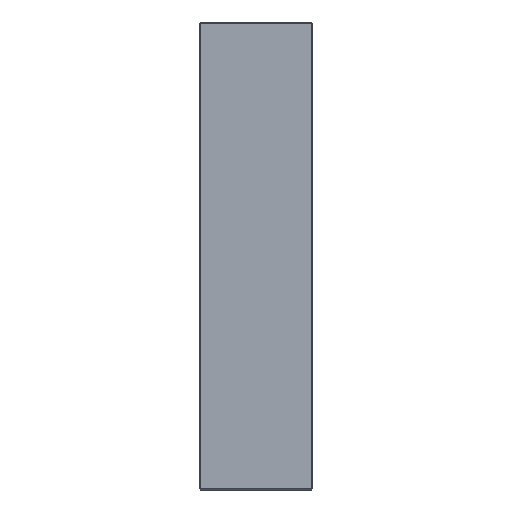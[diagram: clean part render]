
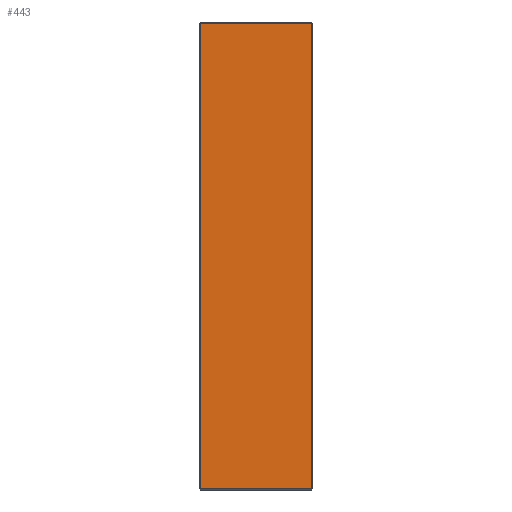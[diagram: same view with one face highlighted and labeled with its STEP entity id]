
A CAD part, left-side view. The second image highlights one B-rep face of the part: STEP entity #443.
In plain terms, the highlighted planar face has unit normal (-1, 0, 0).
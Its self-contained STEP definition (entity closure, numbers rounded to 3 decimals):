
#7 = PLANE ( 'NONE',  #1989 ) ;
#68 = EDGE_LOOP ( 'NONE', ( #2354, #1806, #799, #465 ) ) ;
#237 = CARTESIAN_POINT ( 'NONE',  ( -198., 95., 198. ) ) ;
#293 = VERTEX_POINT ( 'NONE', #1620 ) ;
#362 = FACE_OUTER_BOUND ( 'NONE', #68, .T. ) ;
#380 = CARTESIAN_POINT ( 'NONE',  ( -198., 1., -197. ) ) ;
#437 = LINE ( 'NONE', #2258, #1077 ) ;
#443 = ADVANCED_FACE ( 'NONE', ( #362 ), #7, .F. ) ;
#453 = DIRECTION ( 'NONE',  ( 0., 0., -1. ) ) ;
#461 = CARTESIAN_POINT ( 'NONE',  ( -198., 95., -197. ) ) ;
#465 = ORIENTED_EDGE ( 'NONE', *, *, #1773, .T. ) ;
#557 = CARTESIAN_POINT ( 'NONE',  ( -198., 1., 198. ) ) ;
#701 = EDGE_CURVE ( 'NONE', #293, #1389, #1543, .T. ) ;
#719 = VERTEX_POINT ( 'NONE', #380 ) ;
#799 = ORIENTED_EDGE ( 'NONE', *, *, #1798, .T. ) ;
#1008 = CARTESIAN_POINT ( 'NONE',  ( -198., 96., 197. ) ) ;
#1077 = VECTOR ( 'NONE', #2115, 1000. ) ;
#1147 = LINE ( 'NONE', #1008, #1638 ) ;
#1341 = DIRECTION ( 'NONE',  ( 0., 1., 0. ) ) ;
#1389 = VERTEX_POINT ( 'NONE', #461 ) ;
#1406 = CARTESIAN_POINT ( 'NONE',  ( -198., 1., 197. ) ) ;
#1508 = DIRECTION ( 'NONE',  ( 0., 0., 1. ) ) ;
#1543 = LINE ( 'NONE', #237, #1599 ) ;
#1599 = VECTOR ( 'NONE', #453, 1000. ) ;
#1620 = CARTESIAN_POINT ( 'NONE',  ( -198., 95., 197. ) ) ;
#1638 = VECTOR ( 'NONE', #1341, 1000. ) ;
#1773 = EDGE_CURVE ( 'NONE', #719, #2269, #2167, .T. ) ;
#1798 = EDGE_CURVE ( 'NONE', #1389, #719, #437, .T. ) ;
#1806 = ORIENTED_EDGE ( 'NONE', *, *, #701, .T. ) ;
#1815 = CARTESIAN_POINT ( 'NONE',  ( -198., 96., 198. ) ) ;
#1989 = AXIS2_PLACEMENT_3D ( 'NONE', #1815, #2632, #2636 ) ;
#2115 = DIRECTION ( 'NONE',  ( 0., -1., 0. ) ) ;
#2118 = VECTOR ( 'NONE', #1508, 1000. ) ;
#2167 = LINE ( 'NONE', #557, #2118 ) ;
#2258 = CARTESIAN_POINT ( 'NONE',  ( -198., 96., -197. ) ) ;
#2269 = VERTEX_POINT ( 'NONE', #1406 ) ;
#2354 = ORIENTED_EDGE ( 'NONE', *, *, #2545, .T. ) ;
#2545 = EDGE_CURVE ( 'NONE', #2269, #293, #1147, .T. ) ;
#2632 = DIRECTION ( 'NONE',  ( 1., 0., 0. ) ) ;
#2636 = DIRECTION ( 'NONE',  ( 0., 0., -1. ) ) ;
